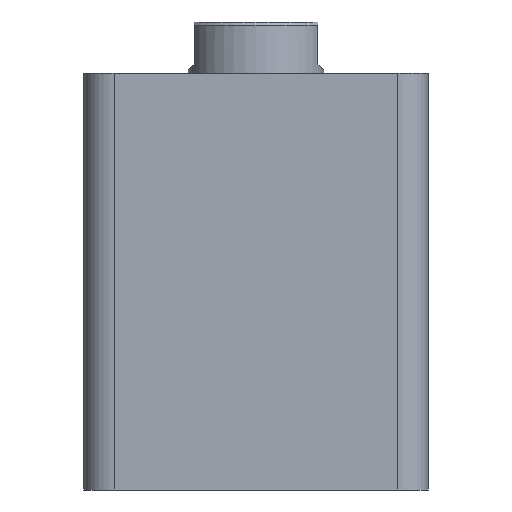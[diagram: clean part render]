
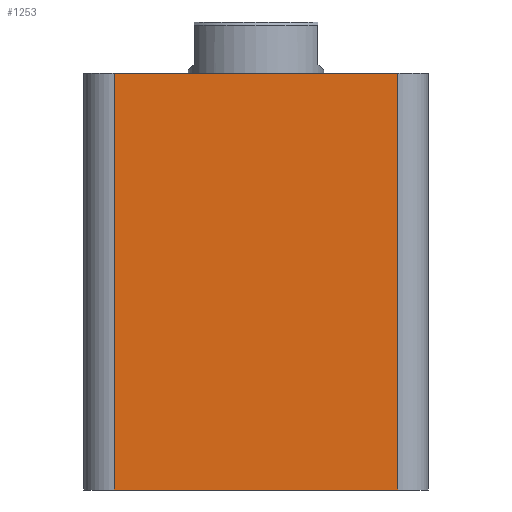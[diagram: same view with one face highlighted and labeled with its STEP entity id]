
A CAD part, front view. The second image highlights one B-rep face of the part: STEP entity #1253.
In plain terms, the highlighted planar face has unit normal (0, -1, 0).
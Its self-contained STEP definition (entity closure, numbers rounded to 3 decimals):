
#63 = ORIENTED_EDGE ( 'NONE', *, *, #2442, .T. ) ;
#68 = ORIENTED_EDGE ( 'NONE', *, *, #2444, .F. ) ;
#151 = CARTESIAN_POINT ( 'NONE',  ( 47., -57., 0. ) ) ;
#300 = EDGE_LOOP ( 'NONE', ( #63, #946, #68, #1079 ) ) ;
#352 = CARTESIAN_POINT ( 'NONE',  ( -47., -57., 0. ) ) ;
#362 = CARTESIAN_POINT ( 'NONE',  ( 47., -57., 138. ) ) ;
#377 = CARTESIAN_POINT ( 'NONE',  ( -47., -57., 138. ) ) ;
#407 = DIRECTION ( 'NONE',  ( 0., 0., 1. ) ) ;
#408 = DIRECTION ( 'NONE',  ( 0., 1., 0. ) ) ;
#409 = PLANE ( 'NONE',  #2534 ) ;
#418 = CARTESIAN_POINT ( 'NONE',  ( -57., -57., 138. ) ) ;
#731 = CARTESIAN_POINT ( 'NONE',  ( 47., -57., 138. ) ) ;
#741 = CARTESIAN_POINT ( 'NONE',  ( -57., -57., 0. ) ) ;
#742 = DIRECTION ( 'NONE',  ( 1., 0., 0. ) ) ;
#743 = DIRECTION ( 'NONE',  ( 0., 0., 1. ) ) ;
#744 = CARTESIAN_POINT ( 'NONE',  ( -57., -57., 138. ) ) ;
#745 = DIRECTION ( 'NONE',  ( 1., 0., 0. ) ) ;
#746 = CARTESIAN_POINT ( 'NONE',  ( -47., -57., 138. ) ) ;
#747 = DIRECTION ( 'NONE',  ( 0., 0., -1. ) ) ;
#911 = VERTEX_POINT ( 'NONE', #151 ) ;
#931 = VERTEX_POINT ( 'NONE', #377 ) ;
#935 = VERTEX_POINT ( 'NONE', #362 ) ;
#938 = VERTEX_POINT ( 'NONE', #352 ) ;
#946 = ORIENTED_EDGE ( 'NONE', *, *, #2443, .T. ) ;
#1014 = FACE_OUTER_BOUND ( 'NONE', #300, .T. ) ;
#1079 = ORIENTED_EDGE ( 'NONE', *, *, #2445, .T. ) ;
#1253 = ADVANCED_FACE ( 'NONE', ( #1014 ), #409, .F. ) ;
#2224 = LINE ( 'NONE', #731, #2235 ) ;
#2230 = LINE ( 'NONE', #741, #2233 ) ;
#2233 = VECTOR ( 'NONE', #742, 1000. ) ;
#2234 = LINE ( 'NONE', #744, #2237 ) ;
#2235 = VECTOR ( 'NONE', #743, 1000. ) ;
#2236 = LINE ( 'NONE', #746, #2239 ) ;
#2237 = VECTOR ( 'NONE', #745, 1000. ) ;
#2239 = VECTOR ( 'NONE', #747, 1000. ) ;
#2442 = EDGE_CURVE ( 'NONE', #938, #911, #2230, .T. ) ;
#2443 = EDGE_CURVE ( 'NONE', #911, #935, #2224, .T. ) ;
#2444 = EDGE_CURVE ( 'NONE', #931, #935, #2234, .T. ) ;
#2445 = EDGE_CURVE ( 'NONE', #931, #938, #2236, .T. ) ;
#2534 = AXIS2_PLACEMENT_3D ( 'NONE', #418, #408, #407 ) ;
